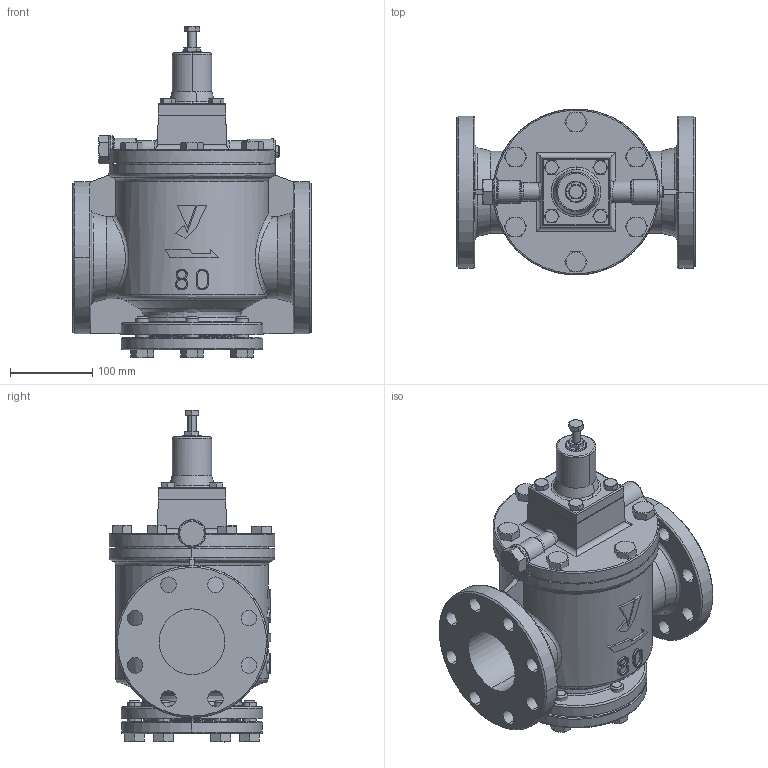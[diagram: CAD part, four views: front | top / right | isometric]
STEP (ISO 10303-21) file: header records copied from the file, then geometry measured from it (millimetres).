
FILE_DESCRIPTION( (''), '2;1');
FILE_NAME ('PC1015.148.GP-1000(80A)JIS10K3D_32419.stp','2024-07-30T14:34:04',(''),(''),'spGate 19.8.4 (****-****-****-****)','','');
FILE_SCHEMA (('AUTOMOTIVE_DESIGN'));
Length unit declared in the file: millimetre
Products named in the file (21): Assembly; GP-1000 80A_M1; GP-1000 80A_M2; GP-1000 80A_M3; GP-1000 80A_M4; GP-1000 80A_M5; GP-1000 80A_M6; GP-1000 80A_M7; GP-1000 80A_M8; GP-1000 80A_M9; GP-1000 80A_M10; CP_''_JIS B 1180 呼び径六角ボルト''_17166; CP_''_JIS B 1180 呼び径六角ボルト''_171_mr; CP_''_JIS B 1180 呼び径六角ボルト''_1_mr-1; CP_''_JIS B 1180 呼び径六角ボルト''_1_mr-2; CP_''_JIS B 1180 呼び径六角ボ''_(1)_17166; CP_''_JIS B 1180 呼び径六角ボ''_(1)_171_mr; CP_''_JIS B 1180 呼び径六角ボ''_(1)_1_mr-1; CP_''_JIS B 1180 呼び径六角ボ''_(1)_1_mr-2; CP_''_JIS B 1180 呼び径六角ボ''_(1)_1_mr-3; CP_''_JIS B 1180 呼び径六角ボ''_(1)_1_mr-4
Assembly tree (20 placements, depth 2):
  Assembly
    GP-1000 80A_M1
    GP-1000 80A_M2
    GP-1000 80A_M3
    GP-1000 80A_M4
    GP-1000 80A_M5
    GP-1000 80A_M6
    GP-1000 80A_M7
    GP-1000 80A_M8
    GP-1000 80A_M9
    GP-1000 80A_M10
    CP_''_JIS B 1180 呼び径六角ボルト''_17166
    CP_''_JIS B 1180 呼び径六角ボルト''_171_mr
    CP_''_JIS B 1180 呼び径六角ボルト''_1_mr-1
    CP_''_JIS B 1180 呼び径六角ボルト''_1_mr-2
    CP_''_JIS B 1180 呼び径六角ボ''_(1)_17166
    CP_''_JIS B 1180 呼び径六角ボ''_(1)_171_mr
    CP_''_JIS B 1180 呼び径六角ボ''_(1)_1_mr-1
    CP_''_JIS B 1180 呼び径六角ボ''_(1)_1_mr-2
    CP_''_JIS B 1180 呼び径六角ボ''_(1)_1_mr-3
    CP_''_JIS B 1180 呼び径六角ボ''_(1)_1_mr-4
Bounding box: 290 x 201.75 x 404 mm (x, y, z)
Volume: 7863793.3 mm3; surface area: 525122.7 mm2
Topology: 20 solids, 20 shells, 754 faces, 1950 edges, 1259 vertices
Faces by surface type: plane 285, bspline 277, cylinder 192
Entity records: 54507 total; most frequent: CARTESIAN_POINT 23597, ORIENTED_EDGE 3816, COLOUR_RGB 2682, PRESENTATION_STYLE_ASSIGNMENT 2682, STYLED_ITEM 2682, DIRECTION 2553, EDGE_CURVE 1908, DRAUGHTING_PRE_DEFINED_CURVE_FONT 1908
